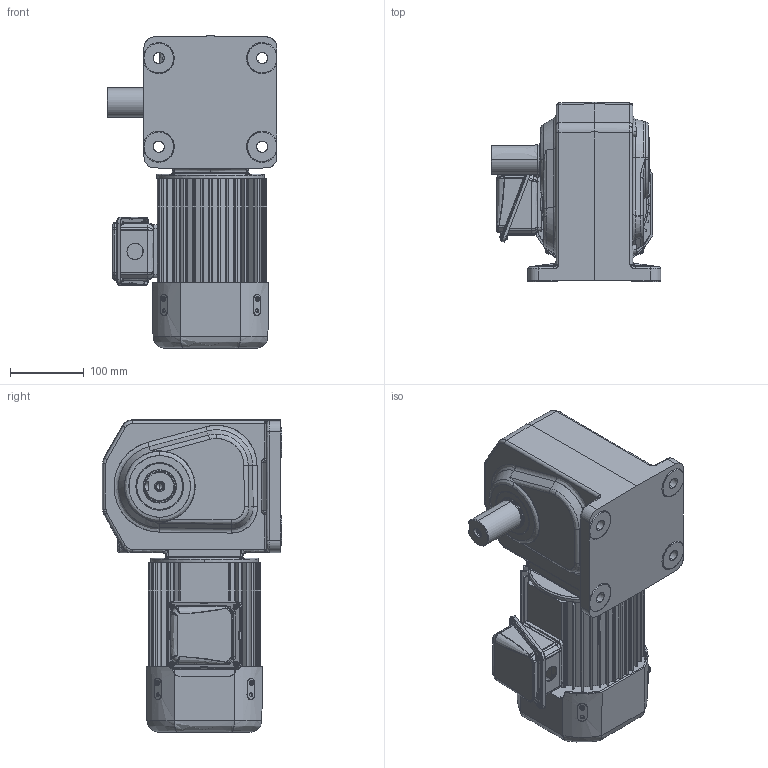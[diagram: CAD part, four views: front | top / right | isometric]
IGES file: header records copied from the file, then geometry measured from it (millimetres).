
Start section: SolidWorks IGES file using analytic representation for surfaces
Global section: file name: \\100.100.100.8\1_共有作業フォルダ\1-5_３Ｄデータ\solidworks\personal-folder\H.Nagayama\HL外形\HL(3D)\igs\TMHLB-07-(80~240)A.IGS; native system: SolidWorks 2018; preprocessor: SolidWorks 2018; author: sigma-giken; date: 200326.172104; units: millimetre
Bounding box: 230 x 242.5 x 422.5 mm (x, y, z)
Surface area: 678102.9 mm2 (no closed solid volume)
Topology: 0 solids, 0 shells, 1701 faces, 20799 edges, 20723 vertices
Faces by surface type: revolution 869, bspline 832
